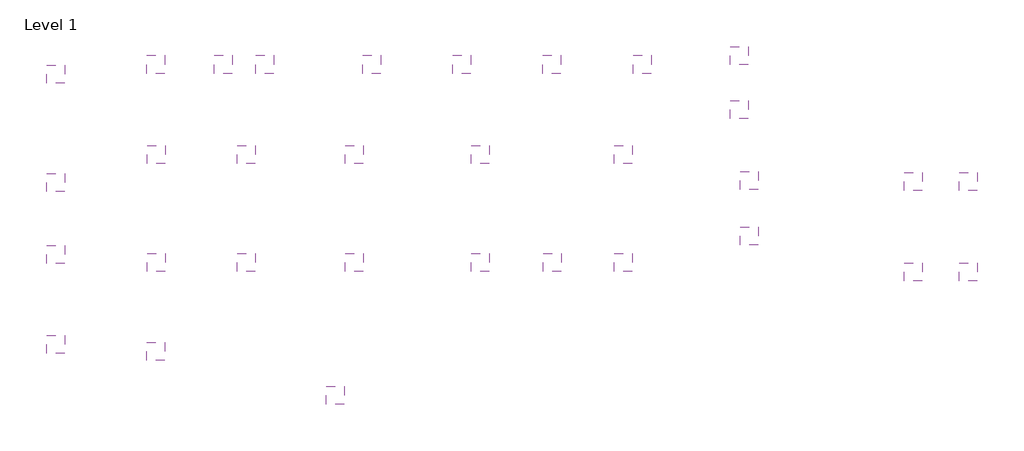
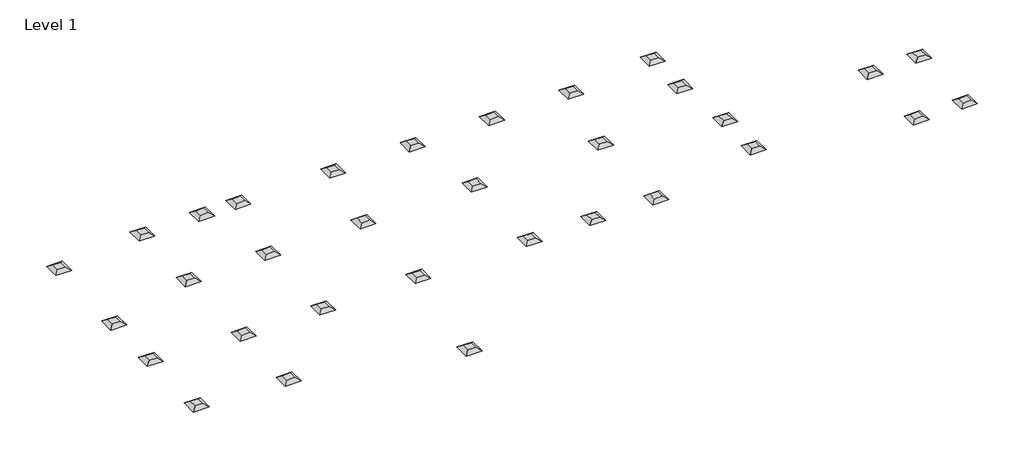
# One storey: 32 air terminals.
"""IFC4 building model written with IfcOpenShell, lengths in millimetres."""

import ifcopenshell
import ifcopenshell.guid

model = None  # the IFC model being written
_history = None  # IfcOwnerHistory: only IFC2X3 demands one
_inside = {}  # id of a spatial element -> (the spatial element, [elements in it])
_under = {}  # id of a project, library or spatial element -> (it, [spatial elements below it])
_declared = {}  # id of a project -> (the project, [libraries it declares])
_typed = {}  # id of a type object -> (the type object, [elements of that type])
_made_of = {}  # id of a material, layer set ... -> (it, [elements and type objects made of it])


def new_model(schema):
    """Start an empty IFC model of exactly this schema.

    Asked for "IFC4X3", IfcOpenShell would pick the latest addendum, in which some entities
    have other attributes; the version numbers below select the first issue.
    IFC2X3 requires an IfcOwnerHistory on every rooted entity: one is made here for all.
    """
    global model, _history
    if schema == "IFC4X3":
        model = ifcopenshell.file(schema_version=(4, 3, 0, 0))
    else:
        model = ifcopenshell.file(schema=schema)
    _inside.clear()
    _under.clear()
    _declared.clear()
    _typed.clear()
    _made_of.clear()
    _history = None
    if model.schema == "IFC2X3":
        org = make("IfcOrganization", Name="unknown")
        user = make(
            "IfcPersonAndOrganization",
            ThePerson=make("IfcPerson", FamilyName="unknown"),
            TheOrganization=org,
        )
        app = make(
            "IfcApplication",
            ApplicationDeveloper=org,
            Version="unknown",
            ApplicationFullName="unknown",
            ApplicationIdentifier="unknown",
        )
        _history = make(
            "IfcOwnerHistory",
            OwningUser=user,
            OwningApplication=app,
            ChangeAction="ADDED",
            CreationDate=0,
        )
    return model


def make(cls, **values):
    """One entity of the class cls with the attributes given. An attribute that is None is left unset."""
    return model.create_entity(
        cls, **{name: value for name, value in values.items() if value is not None}
    )


def rooted(cls, **values):
    """An entity with a GlobalId (a new one), such as an element, a storey or a relation."""
    return make(cls, GlobalId=ifcopenshell.guid.new(), OwnerHistory=_history, **values)


def si_unit(unit_type, name, prefix=None):
    """IfcSIUnit, for example si_unit("LENGTHUNIT", "METRE", prefix="MILLI")."""
    return make("IfcSIUnit", UnitType=unit_type, Prefix=prefix, Name=name)


def assignment(units):
    """IfcUnitAssignment: the units of a project."""
    return None if units is None else make("IfcUnitAssignment", Units=units)


def point(xyz):
    """IfcCartesianPoint."""
    return None if xyz is None else make("IfcCartesianPoint", Coordinates=xyz)


def direction(xyz):
    """IfcDirection."""
    return None if xyz is None else make("IfcDirection", DirectionRatios=xyz)


def frame(location, z_axis=None, x_axis=None):
    """IfcAxis2Placement3D, a coordinate frame: its origin and axes. An axis left out is left unset."""
    return make(
        "IfcAxis2Placement3D",
        Location=point(location),
        Axis=direction(z_axis),
        RefDirection=direction(x_axis),
    )


def origin():
    """The frame at (0, 0, 0) with its axes left unset."""
    return frame((0.0, 0.0, 0.0))


def place(relative_to, where):
    """IfcLocalPlacement: puts the frame where relative to a parent placement (None: the world)."""
    return make(
        "IfcLocalPlacement", PlacementRelTo=relative_to, RelativePlacement=where
    )


def context(
    kind, dimensions, precision=None, world=None, true_north=None, identifier=None
):
    """IfcGeometricRepresentationContext, for example the 3D "Model" context."""
    return make(
        "IfcGeometricRepresentationContext",
        ContextIdentifier=identifier,
        ContextType=kind,
        CoordinateSpaceDimension=dimensions,
        Precision=precision,
        WorldCoordinateSystem=world,
        TrueNorth=true_north,
    )


def project(units=None, contexts=None):
    """IfcProject with its units and contexts."""
    return rooted(
        "IfcProject",
        Name="project",
        RepresentationContexts=contexts,
        UnitsInContext=assignment(units),
    )


def spatial(cls, under=None, at=None, **own):
    """A site, building, storey or space (cls), placed at a placement, below another one or the project."""
    s = rooted(cls, ObjectPlacement=at, **own)
    if under is not None:
        _under.setdefault(under.id(), (under, []))[1].append(s)
    return s


def faces_of(points, faces, orient=None, outer=None):
    """IfcFace entities. A face is a list of loops; a loop is a list of indices into points, from 0.

    orient and outer hold one flag for each loop. By default every Orientation is true, the
    first loop of a face is its IfcFaceOuterBound and the others are IfcFaceBound.
    """
    made = []
    for i, loops in enumerate(faces):
        bounds = []
        for j, loop in enumerate(loops):
            is_outer = j == 0 if outer is None else outer[i][j]
            bounds.append(
                make(
                    "IfcFaceOuterBound" if is_outer else "IfcFaceBound",
                    Bound=make("IfcPolyLoop", Polygon=[points[k] for k in loop]),
                    Orientation=True if orient is None else orient[i][j],
                )
            )
        made.append(make("IfcFace", Bounds=bounds))
    return made


def faceted_brep(points, faces, orient=None, outer=None, voids=None):
    """IfcFacetedBrep: a solid bounded by flat faces; with voids (closed shells), ...WithVoids."""
    shared = [point(p) for p in points]
    hull = make("IfcClosedShell", CfsFaces=faces_of(shared, faces, orient, outer))
    if voids is None:
        return make("IfcFacetedBrep", Outer=hull)
    return make(
        "IfcFacetedBrepWithVoids",
        Outer=hull,
        Voids=[
            make(cls, CfsFaces=faces_of(shared, fs, o, b)) for cls, fs, o, b in voids
        ],
    )


def shape(context_of_items, identifier, shape_type, items):
    """IfcShapeRepresentation: the items that make up one representation, for example the "Body"."""
    return make(
        "IfcShapeRepresentation",
        ContextOfItems=context_of_items,
        RepresentationIdentifier=identifier,
        RepresentationType=shape_type,
        Items=items,
    )


def source(mapping_origin, context_of_items, identifier, shape_type, items):
    """IfcRepresentationMap: a shape defined once, which mapped items show again and again."""
    return make(
        "IfcRepresentationMap",
        MappingOrigin=mapping_origin,
        MappedRepresentation=shape(context_of_items, identifier, shape_type, items),
    )


def transform(
    local_origin,
    x_axis=None,
    y_axis=None,
    z_axis=None,
    scale=None,
    scale2=None,
    scale3=None,
    uniform=True,
):
    """IfcCartesianTransformationOperator3D, or its non-uniform kind. x_axis, y_axis, z_axis: its Axis1, 2, 3."""
    if uniform:
        return make(
            "IfcCartesianTransformationOperator3D",
            Axis1=direction(x_axis),
            Axis2=direction(y_axis),
            LocalOrigin=point(local_origin),
            Scale=scale,
            Axis3=direction(z_axis),
        )
    return make(
        "IfcCartesianTransformationOperator3DnonUniform",
        Axis1=direction(x_axis),
        Axis2=direction(y_axis),
        LocalOrigin=point(local_origin),
        Scale=scale,
        Axis3=direction(z_axis),
        Scale2=scale2,
        Scale3=scale3,
    )


def mapped(mapping_source, mapping_target):
    """IfcMappedItem: shows the shape of a source again, moved by a transform."""
    return make(
        "IfcMappedItem", MappingSource=mapping_source, MappingTarget=mapping_target
    )


def made_of(thing, what):
    """Note that an element or type object is made of a material, layer set ...; save() writes the relation."""
    if what is not None:
        _made_of.setdefault(what.id(), (what, []))[1].append(thing)
    return thing


def element(
    cls,
    number,
    at=None,
    inside=None,
    cuts=None,
    type_object=None,
    material=None,
    context=None,
    identifier="Body",
    shape_type=None,
    held_by="IfcProductDefinitionShape",
    body=None,
    shapes=None,
    **own,
):
    """One element of the class cls, such as IfcWall. Its Tag is "e" and its number.

    at: its placement. inside: the storey or other place that contains it. cuts: it is an
    opening in that element (IfcRelVoidsElement). A single representation is given by context,
    identifier, shape_type and body (its items); several are given by shapes. held_by: the class
    of the entity that holds the representations. save() writes the other relations.
    """
    e = rooted(cls, Tag="e%d" % number, ObjectPlacement=at, **own)
    if body is not None:
        shapes = [shape(context, identifier, shape_type, body)]
    if shapes is not None:
        e.Representation = make(held_by, Representations=shapes)
    if inside is not None:
        _inside.setdefault(inside.id(), (inside, []))[1].append(e)
    if cuts is not None:
        rooted(
            "IfcRelVoidsElement", RelatingBuildingElement=cuts, RelatedOpeningElement=e
        )
    if type_object is not None:
        _typed.setdefault(type_object.id(), (type_object, []))[1].append(e)
    return made_of(e, material)


def aggregate(whole, parts):
    """IfcRelAggregates: a whole, such as a stair, and the parts it consists of."""
    return rooted("IfcRelAggregates", RelatingObject=whole, RelatedObjects=parts)


def save(model, path):
    """Write the relations noted so far, then the file.

    IfcRelAggregates (storeys below a building ...), IfcRelContainedInSpatialStructure (elements
    in a storey), IfcRelDefinesByType, IfcRelAssociatesMaterial and IfcRelDeclares: one each for
    every whole, place, type object, material and project.
    """
    for whole, parts in _under.values():
        aggregate(whole, parts)
    for where, things in _inside.values():
        rooted(
            "IfcRelContainedInSpatialStructure",
            RelatedElements=things,
            RelatingStructure=where,
        )
    for kind, things in _typed.values():
        rooted("IfcRelDefinesByType", RelatedObjects=things, RelatingType=kind)
    for what, things in _made_of.values():
        rooted("IfcRelAssociatesMaterial", RelatedObjects=things, RelatingMaterial=what)
    for by, libraries in _declared.values():
        rooted("IfcRelDeclares", RelatingContext=by, RelatedDefinitions=libraries)
    model.write(path)


def return_diffuser_hosted_workplane_based_return_diffuser_7695a80a(model_context):
    return source(origin(), model_context, "Body", "Brep", [
        faceted_brep([(304.8, 304.8, 0.0), (-304.8, 304.8, 0.0), (-304.8, -304.8, 0.0), (304.8, -304.8, 0.0), (152.4, 152.4, -101.8523776), (152.4, -152.4, -101.8523776), (-152.4, -152.4, -101.8523776), (-152.4, 152.4, -101.8523776)], [[[0, 1, 2, 3]], [[4, 5, 6, 7]], [[4, 7, 1, 0]], [[7, 6, 2, 1]], [[6, 5, 3, 2]], [[5, 4, 0, 3]]]),
    ])


model = new_model("IFC4")

# Units and contexts
model_context = context("Model", 3, world=origin())
ifc_project = project(units=[si_unit("LENGTHUNIT", "METRE", prefix="MILLI")], contexts=[model_context])

# Site, building, storey
site = spatial("IfcSite", under=ifc_project)
building = spatial("IfcBuilding", under=site)
storey = spatial("IfcBuildingStorey", under=building, Name="Level 1", Elevation=0.0)

# Air terminals
placement = place(None, origin())
return_diffuser_hosted_workplane_based_return_diffuser_shape = return_diffuser_hosted_workplane_based_return_diffuser_7695a80a(model_context)
element("IfcAirTerminal", 1, ObjectType="Return Diffuser - Hosted : Workplane-based Return Diffuser", at=placement, inside=storey, context=model_context, shape_type="MappedRepresentation", body=[
    mapped(return_diffuser_hosted_workplane_based_return_diffuser_shape, transform((-21916.7339359, 10483.8984503, 2514.6), x_axis=(0.0, -1.0, 0.0), y_axis=(-1.0, 0.0, 0.0), z_axis=(0.0, 0.0, -1.0))),
])
element("IfcAirTerminal", 2, ObjectType="Return Diffuser - Hosted : Workplane-based Return Diffuser", at=placement, inside=storey, context=model_context, shape_type="MappedRepresentation", body=[
    mapped(return_diffuser_hosted_workplane_based_return_diffuser_shape, transform((-21916.7339359, 769.7410539, 2514.6), x_axis=(0.0, -1.0, 0.0), y_axis=(-1.0, 0.0, 0.0), z_axis=(0.0, 0.0, -1.0))),
])
element("IfcAirTerminal", 3, ObjectType="Return Diffuser - Hosted : Workplane-based Return Diffuser", at=placement, inside=storey, context=model_context, shape_type="MappedRepresentation", body=[
    mapped(return_diffuser_hosted_workplane_based_return_diffuser_shape, transform((5588.5753749, 6510.6674075, 2514.6), x_axis=(0.0, -1.0, 0.0), y_axis=(-1.0, 0.0, 0.0), z_axis=(0.0, 0.0, -1.0))),
])
element("IfcAirTerminal", 4, ObjectType="Return Diffuser - Hosted : Workplane-based Return Diffuser", at=placement, inside=storey, context=model_context, shape_type="MappedRepresentation", body=[
    mapped(return_diffuser_hosted_workplane_based_return_diffuser_shape, transform((-19630.7339359, 10483.8984503, 2514.6), x_axis=(0.0, -1.0, 0.0), y_axis=(-1.0, 0.0, 0.0), z_axis=(0.0, 0.0, -1.0))),
])
element("IfcAirTerminal", 5, ObjectType="Return Diffuser - Hosted : Workplane-based Return Diffuser", at=placement, inside=storey, context=model_context, shape_type="MappedRepresentation", body=[
    mapped(return_diffuser_hosted_workplane_based_return_diffuser_shape, transform((-8496.7251397, 3775.2315553, 2514.6), x_axis=(-1.0, 0.0, 0.0), y_axis=(0.0, 1.0, 0.0), z_axis=(0.0, 0.0, -1.0))),
])
element("IfcAirTerminal", 6, ObjectType="Supply Diffuser - Hosted : Workplane-based Supply Diffuser", at=placement, inside=storey, context=model_context, shape_type="MappedRepresentation", body=[
    mapped(return_diffuser_hosted_workplane_based_return_diffuser_shape, transform((-14603.2525169, 10483.8984503, 2514.6), x_axis=(0.0, -1.0, 0.0), y_axis=(-1.0, 0.0, 0.0), z_axis=(0.0, 0.0, -1.0))),
])
element("IfcAirTerminal", 7, ObjectType="Supply Diffuser - Hosted : Workplane-based Supply Diffuser", at=placement, inside=storey, context=model_context, shape_type="MappedRepresentation", body=[
    mapped(return_diffuser_hosted_workplane_based_return_diffuser_shape, transform((-18235.5178041, 10483.8984503, 2514.6), x_axis=(0.0, -1.0, 0.0), y_axis=(-1.0, 0.0, 0.0), z_axis=(0.0, 0.0, -1.0))),
])
element("IfcAirTerminal", 8, ObjectType="Supply Diffuser - Hosted : Workplane-based Supply Diffuser", at=placement, inside=storey, context=model_context, shape_type="MappedRepresentation", body=[
    mapped(return_diffuser_hosted_workplane_based_return_diffuser_shape, transform((-11555.2525169, 10483.8984503, 2514.6), x_axis=(0.0, -1.0, 0.0), y_axis=(-1.0, 0.0, 0.0), z_axis=(0.0, 0.0, -1.0))),
])
element("IfcAirTerminal", 9, ObjectType="Supply Diffuser - Hosted : Workplane-based Supply Diffuser", at=placement, inside=storey, context=model_context, shape_type="MappedRepresentation", body=[
    mapped(return_diffuser_hosted_workplane_based_return_diffuser_shape, transform((-8507.2525169, 10483.8984503, 2514.6), x_axis=(0.0, -1.0, 0.0), y_axis=(-1.0, 0.0, 0.0), z_axis=(0.0, 0.0, -1.0))),
])
element("IfcAirTerminal", 10, ObjectType="Supply Diffuser - Hosted : Workplane-based Supply Diffuser", at=placement, inside=storey, context=model_context, shape_type="MappedRepresentation", body=[
    mapped(return_diffuser_hosted_workplane_based_return_diffuser_shape, transform((-5459.2525169, 10483.8984503, 2514.6), x_axis=(0.0, -1.0, 0.0), y_axis=(-1.0, 0.0, 0.0), z_axis=(0.0, 0.0, -1.0))),
])
element("IfcAirTerminal", 11, ObjectType="Supply Diffuser - Hosted : Workplane-based Supply Diffuser", at=placement, inside=storey, context=model_context, shape_type="MappedRepresentation", body=[
    mapped(return_diffuser_hosted_workplane_based_return_diffuser_shape, transform((-2169.6824517, 10786.7852219, 2514.6), x_axis=(0.0, -1.0, 0.0), y_axis=(-1.0, 0.0, 0.0), z_axis=(0.0, 0.0, -1.0))),
])
element("IfcAirTerminal", 12, ObjectType="Supply Diffuser - Hosted : Workplane-based Supply Diffuser", at=placement, inside=storey, context=model_context, shape_type="MappedRepresentation", body=[
    mapped(return_diffuser_hosted_workplane_based_return_diffuser_shape, transform((-2169.6824517, 8957.9852219, 2514.6), x_axis=(0.0, -1.0, 0.0), y_axis=(-1.0, 0.0, 0.0), z_axis=(0.0, 0.0, -1.0))),
])
element("IfcAirTerminal", 13, ObjectType="Supply Diffuser - Hosted : Workplane-based Supply Diffuser", at=placement, inside=storey, context=model_context, shape_type="MappedRepresentation", body=[
    mapped(return_diffuser_hosted_workplane_based_return_diffuser_shape, transform((-25309.6859678, 10145.7709948, 2514.6), x_axis=(-1.0, 0.0, 0.0), y_axis=(0.0, 1.0, 0.0), z_axis=(0.0, 0.0, -1.0))),
])
element("IfcAirTerminal", 14, ObjectType="Supply Diffuser - Hosted : Workplane-based Supply Diffuser", at=placement, inside=storey, context=model_context, shape_type="MappedRepresentation", body=[
    mapped(return_diffuser_hosted_workplane_based_return_diffuser_shape, transform((-25309.6859678, 6488.1709948, 2514.6), x_axis=(-1.0, 0.0, 0.0), y_axis=(0.0, 1.0, 0.0), z_axis=(0.0, 0.0, -1.0))),
])
element("IfcAirTerminal", 15, ObjectType="Supply Diffuser - Hosted : Workplane-based Supply Diffuser", at=placement, inside=storey, context=model_context, shape_type="MappedRepresentation", body=[
    mapped(return_diffuser_hosted_workplane_based_return_diffuser_shape, transform((-25309.6859678, 4049.7709948, 2514.6), x_axis=(-1.0, 0.0, 0.0), y_axis=(0.0, 1.0, 0.0), z_axis=(0.0, 0.0, -1.0))),
])
element("IfcAirTerminal", 16, ObjectType="Supply Diffuser - Hosted : Workplane-based Supply Diffuser", at=placement, inside=storey, context=model_context, shape_type="MappedRepresentation", body=[
    mapped(return_diffuser_hosted_workplane_based_return_diffuser_shape, transform((-25309.6859678, 1001.7709948, 2514.6), x_axis=(-1.0, 0.0, 0.0), y_axis=(0.0, 1.0, 0.0), z_axis=(0.0, 0.0, -1.0))),
])
element("IfcAirTerminal", 17, ObjectType="Supply Diffuser - Hosted : Workplane-based Supply Diffuser", at=placement, inside=storey, context=model_context, shape_type="MappedRepresentation", body=[
    mapped(return_diffuser_hosted_workplane_based_return_diffuser_shape, transform((-18859.9251397, 7432.8315553, 2514.6), x_axis=(-1.0, 0.0, 0.0), y_axis=(0.0, 1.0, 0.0), z_axis=(0.0, 0.0, -1.0))),
])
element("IfcAirTerminal", 18, ObjectType="Supply Diffuser - Hosted : Workplane-based Supply Diffuser", at=placement, inside=storey, context=model_context, shape_type="MappedRepresentation", body=[
    mapped(return_diffuser_hosted_workplane_based_return_diffuser_shape, transform((-15202.3251397, 7432.8315553, 2514.6), x_axis=(-1.0, 0.0, 0.0), y_axis=(0.0, 1.0, 0.0), z_axis=(0.0, 0.0, -1.0))),
])
element("IfcAirTerminal", 19, ObjectType="Supply Diffuser - Hosted : Workplane-based Supply Diffuser", at=placement, inside=storey, context=model_context, shape_type="MappedRepresentation", body=[
    mapped(return_diffuser_hosted_workplane_based_return_diffuser_shape, transform((-10935.1251397, 7432.8315553, 2514.6), x_axis=(-1.0, 0.0, 0.0), y_axis=(0.0, 1.0, 0.0), z_axis=(0.0, 0.0, -1.0))),
])
element("IfcAirTerminal", 20, ObjectType="Supply Diffuser - Hosted : Workplane-based Supply Diffuser", at=placement, inside=storey, context=model_context, shape_type="MappedRepresentation", body=[
    mapped(return_diffuser_hosted_workplane_based_return_diffuser_shape, transform((-6087.0836003, 7432.8315553, 2514.6), x_axis=(-1.0, 0.0, 0.0), y_axis=(0.0, 1.0, 0.0), z_axis=(0.0, 0.0, -1.0))),
])
element("IfcAirTerminal", 21, ObjectType="Supply Diffuser - Hosted : Workplane-based Supply Diffuser", at=placement, inside=storey, context=model_context, shape_type="MappedRepresentation", body=[
    mapped(return_diffuser_hosted_workplane_based_return_diffuser_shape, transform((-18859.9251397, 3775.2315553, 2514.6), x_axis=(-1.0, 0.0, 0.0), y_axis=(0.0, 1.0, 0.0), z_axis=(0.0, 0.0, -1.0))),
])
element("IfcAirTerminal", 22, ObjectType="Supply Diffuser - Hosted : Workplane-based Supply Diffuser", at=placement, inside=storey, context=model_context, shape_type="MappedRepresentation", body=[
    mapped(return_diffuser_hosted_workplane_based_return_diffuser_shape, transform((-15202.3251397, 3775.2315553, 2514.6), x_axis=(-1.0, 0.0, 0.0), y_axis=(0.0, 1.0, 0.0), z_axis=(0.0, 0.0, -1.0))),
])
element("IfcAirTerminal", 23, ObjectType="Supply Diffuser - Hosted : Workplane-based Supply Diffuser", at=placement, inside=storey, context=model_context, shape_type="MappedRepresentation", body=[
    mapped(return_diffuser_hosted_workplane_based_return_diffuser_shape, transform((-10935.1251397, 3775.2315553, 2514.6), x_axis=(-1.0, 0.0, 0.0), y_axis=(0.0, 1.0, 0.0), z_axis=(0.0, 0.0, -1.0))),
])
element("IfcAirTerminal", 24, ObjectType="Supply Diffuser - Hosted : Workplane-based Supply Diffuser", at=placement, inside=storey, context=model_context, shape_type="MappedRepresentation", body=[
    mapped(return_diffuser_hosted_workplane_based_return_diffuser_shape, transform((-6087.0836003, 3775.2315553, 2514.6), x_axis=(-1.0, 0.0, 0.0), y_axis=(0.0, 1.0, 0.0), z_axis=(0.0, 0.0, -1.0))),
])
element("IfcAirTerminal", 25, ObjectType="Supply Diffuser - Hosted : Workplane-based Supply Diffuser", at=placement, inside=storey, context=model_context, shape_type="MappedRepresentation", body=[
    mapped(return_diffuser_hosted_workplane_based_return_diffuser_shape, transform((-21907.9251397, 7432.8315553, 2514.6), x_axis=(-1.0, 0.0, 0.0), y_axis=(0.0, 1.0, 0.0), z_axis=(0.0, 0.0, -1.0))),
])
element("IfcAirTerminal", 26, ObjectType="Supply Diffuser - Hosted : Workplane-based Supply Diffuser", at=placement, inside=storey, context=model_context, shape_type="MappedRepresentation", body=[
    mapped(return_diffuser_hosted_workplane_based_return_diffuser_shape, transform((-21907.9251397, 3775.2315553, 2514.6), x_axis=(-1.0, 0.0, 0.0), y_axis=(0.0, 1.0, 0.0), z_axis=(0.0, 0.0, -1.0))),
])
element("IfcAirTerminal", 27, ObjectType="Supply Diffuser - Hosted : Workplane-based Supply Diffuser", at=placement, inside=storey, context=model_context, shape_type="MappedRepresentation", body=[
    mapped(return_diffuser_hosted_workplane_based_return_diffuser_shape, transform((-15840.2163074, -721.0697729, 2514.6), x_axis=(-1.0, 0.0, 0.0), y_axis=(0.0, 1.0, 0.0), z_axis=(0.0, 0.0, -1.0))),
])
element("IfcAirTerminal", 28, ObjectType="Supply Diffuser - Hosted : Workplane-based Supply Diffuser", at=placement, inside=storey, context=model_context, shape_type="MappedRepresentation", body=[
    mapped(return_diffuser_hosted_workplane_based_return_diffuser_shape, transform((-1831.3915429, 6549.6522814, 2514.6), x_axis=(-1.0, 0.0, 0.0), y_axis=(0.0, 1.0, 0.0), z_axis=(0.0, 0.0, -1.0))),
])
element("IfcAirTerminal", 29, ObjectType="Supply Diffuser - Hosted : Workplane-based Supply Diffuser", at=placement, inside=storey, context=model_context, shape_type="MappedRepresentation", body=[
    mapped(return_diffuser_hosted_workplane_based_return_diffuser_shape, transform((-1831.3915429, 4667.5318675, 2514.6), x_axis=(-1.0, 0.0, 0.0), y_axis=(0.0, 1.0, 0.0), z_axis=(0.0, 0.0, -1.0))),
])
element("IfcAirTerminal", 30, ObjectType="Supply Diffuser - Hosted : Workplane-based Supply Diffuser", at=placement, inside=storey, context=model_context, shape_type="MappedRepresentation", body=[
    mapped(return_diffuser_hosted_workplane_based_return_diffuser_shape, transform((3722.2049459, 6509.0041218, 2514.6), x_axis=(-1.0, 0.0, 0.0), y_axis=(0.0, 1.0, 0.0), z_axis=(0.0, 0.0, -1.0))),
])
element("IfcAirTerminal", 31, ObjectType="Supply Diffuser - Hosted : Workplane-based Supply Diffuser", at=placement, inside=storey, context=model_context, shape_type="MappedRepresentation", body=[
    mapped(return_diffuser_hosted_workplane_based_return_diffuser_shape, transform((3722.2049459, 3455.2867041, 2514.6), x_axis=(-1.0, 0.0, 0.0), y_axis=(0.0, 1.0, 0.0), z_axis=(0.0, 0.0, -1.0))),
])
element("IfcAirTerminal", 32, ObjectType="Supply Diffuser - Hosted : Workplane-based Supply Diffuser", at=placement, inside=storey, context=model_context, shape_type="MappedRepresentation", body=[
    mapped(return_diffuser_hosted_workplane_based_return_diffuser_shape, transform((5576.4253448, 3455.2867041, 2514.6), x_axis=(-1.0, 0.0, 0.0), y_axis=(0.0, 1.0, 0.0), z_axis=(0.0, 0.0, -1.0))),
])

save(model, "model.ifc")
